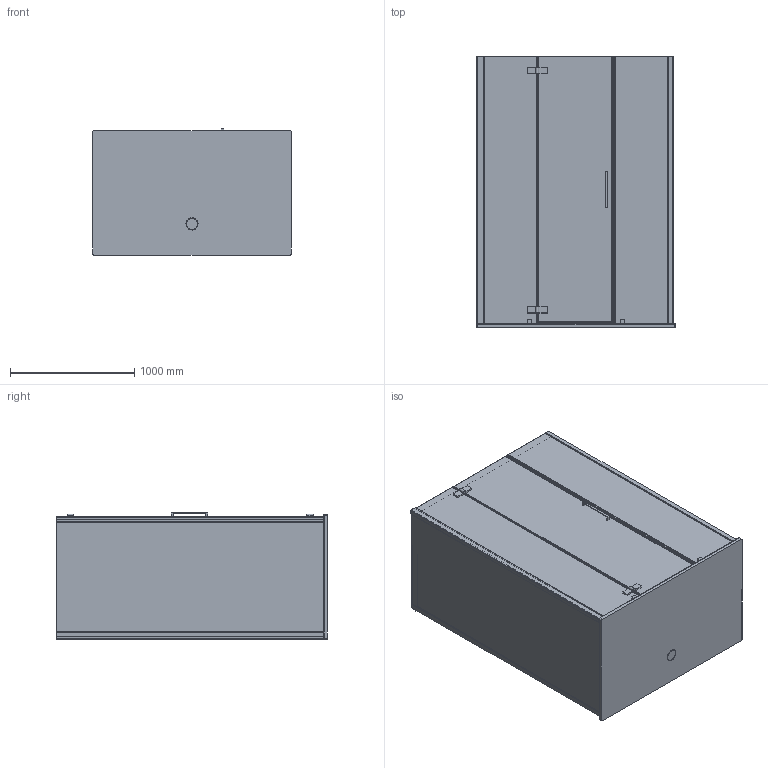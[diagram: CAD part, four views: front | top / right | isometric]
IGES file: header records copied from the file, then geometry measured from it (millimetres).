
Start section: SolidWorks IGES file using analytic representation for surfaces
Global section: file name: D:\Users\M.Szymanski\Desktop\Kabiny\SENSEPEREINCE\03. do przegrania\Senseperience_1600x1000_L_K3D.IGS; native system: SolidWorks 2011; preprocessor: SolidWorks 2011; author: M.Szymanski; date: 181218.094948; units: millimetre
Bounding box: 1600 x 2180 x 1014.55 mm (x, y, z)
Surface area: 34575526.6 mm2 (no closed solid volume)
Topology: 0 solids, 0 shells, 1834 faces, 12572 edges, 15246 vertices
Faces by surface type: bspline 1190, revolution 644
